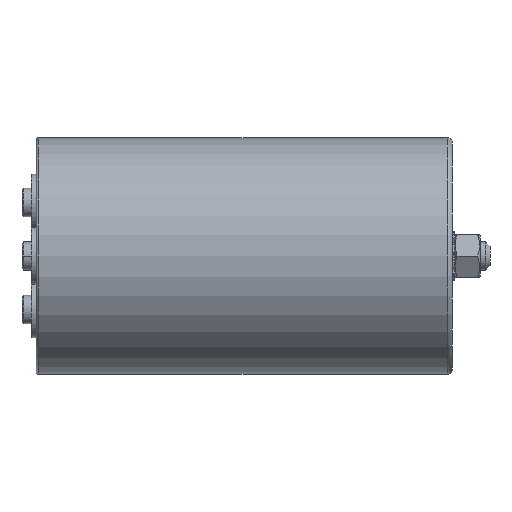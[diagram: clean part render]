
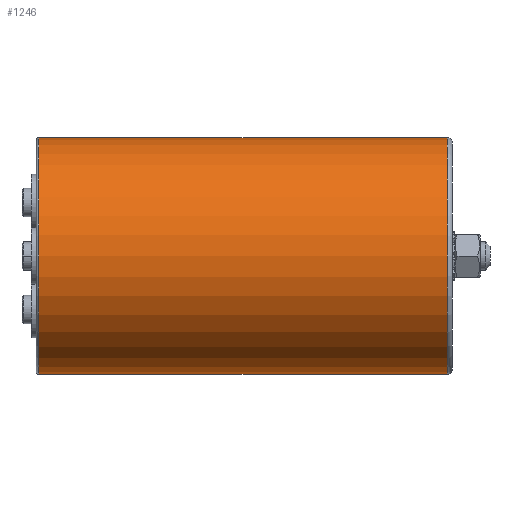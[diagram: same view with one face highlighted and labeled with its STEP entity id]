
A CAD part, left-side view. The second image highlights one B-rep face of the part: STEP entity #1246.
In plain terms, the highlighted cylindrical face has radius 50 mm (diameter 100 mm), a partial arc.
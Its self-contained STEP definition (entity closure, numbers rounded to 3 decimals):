
#270 = FACE_OUTER_BOUND ( 'NONE', #2154, .T. ) ;
#280 = DIRECTION ( 'NONE',  ( 0., 0., 1. ) ) ;
#522 = ORIENTED_EDGE ( 'NONE', *, *, #2242, .F. ) ;
#539 = LINE ( 'NONE', #2387, #1177 ) ;
#580 = ORIENTED_EDGE ( 'NONE', *, *, #698, .T. ) ;
#595 = CARTESIAN_POINT ( 'NONE',  ( 0., 2., 50. ) ) ;
#676 = CYLINDRICAL_SURFACE ( 'NONE', #3392, 50. ) ;
#698 = EDGE_CURVE ( 'NONE', #3981, #2178, #3792, .T. ) ;
#940 = DIRECTION ( 'NONE',  ( 0., -1., 0. ) ) ;
#1065 = LINE ( 'NONE', #1831, #2460 ) ;
#1169 = EDGE_CURVE ( 'NONE', #2767, #3981, #539, .T. ) ;
#1170 = ORIENTED_EDGE ( 'NONE', *, *, #3865, .T. ) ;
#1177 = VECTOR ( 'NONE', #3127, 1000. ) ;
#1218 = CARTESIAN_POINT ( 'NONE',  ( 0., 175., 50. ) ) ;
#1246 = ADVANCED_FACE ( 'NONE', ( #270 ), #676, .T. ) ;
#1360 = DIRECTION ( 'NONE',  ( 0., -1., 0. ) ) ;
#1617 = CARTESIAN_POINT ( 'NONE',  ( 0., 2., 0. ) ) ;
#1686 = CARTESIAN_POINT ( 'NONE',  ( 0., 0., 0. ) ) ;
#1741 = CARTESIAN_POINT ( 'NONE',  ( 0., 175., 0. ) ) ;
#1831 = CARTESIAN_POINT ( 'NONE',  ( 0., 0., 50. ) ) ;
#1855 = CARTESIAN_POINT ( 'NONE',  ( 0., 2., -50. ) ) ;
#2154 = EDGE_LOOP ( 'NONE', ( #522, #1170, #2409, #580 ) ) ;
#2178 = VERTEX_POINT ( 'NONE', #595 ) ;
#2242 = EDGE_CURVE ( 'NONE', #3809, #2178, #1065, .T. ) ;
#2342 = CARTESIAN_POINT ( 'NONE',  ( 0., 175., -50. ) ) ;
#2348 = AXIS2_PLACEMENT_3D ( 'NONE', #1617, #2683, #2771 ) ;
#2387 = CARTESIAN_POINT ( 'NONE',  ( 0., 0., -50. ) ) ;
#2409 = ORIENTED_EDGE ( 'NONE', *, *, #1169, .T. ) ;
#2460 = VECTOR ( 'NONE', #4358, 1000. ) ;
#2556 = CIRCLE ( 'NONE', #3158, 50. ) ;
#2683 = DIRECTION ( 'NONE',  ( 0., 1., 0. ) ) ;
#2767 = VERTEX_POINT ( 'NONE', #2342 ) ;
#2771 = DIRECTION ( 'NONE',  ( 0., 0., -1. ) ) ;
#3127 = DIRECTION ( 'NONE',  ( 0., -1., 0. ) ) ;
#3158 = AXIS2_PLACEMENT_3D ( 'NONE', #1741, #1360, #280 ) ;
#3392 = AXIS2_PLACEMENT_3D ( 'NONE', #1686, #940, #4641 ) ;
#3792 = CIRCLE ( 'NONE', #2348, 50. ) ;
#3809 = VERTEX_POINT ( 'NONE', #1218 ) ;
#3865 = EDGE_CURVE ( 'NONE', #3809, #2767, #2556, .T. ) ;
#3981 = VERTEX_POINT ( 'NONE', #1855 ) ;
#4358 = DIRECTION ( 'NONE',  ( 0., -1., 0. ) ) ;
#4641 = DIRECTION ( 'NONE',  ( 0., 0., -1. ) ) ;
